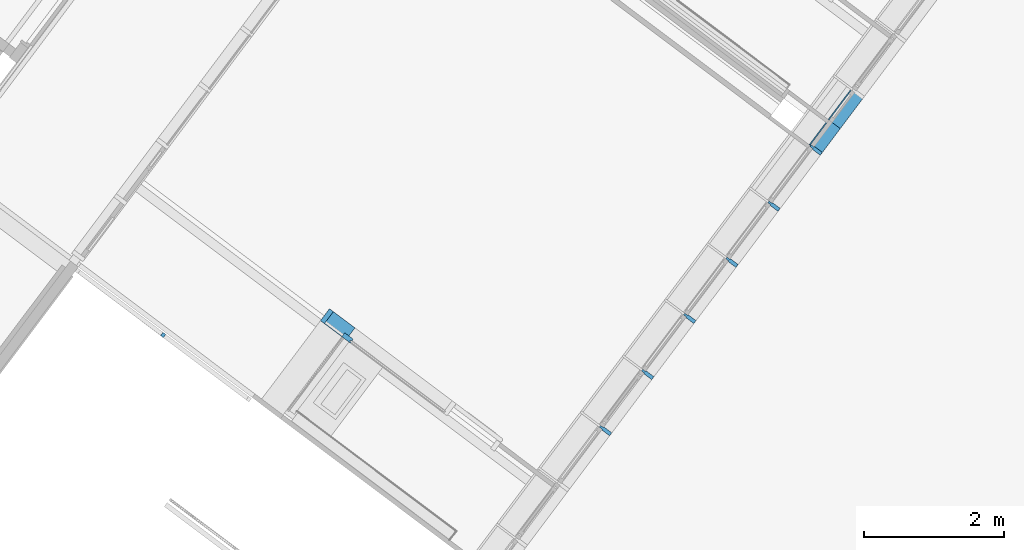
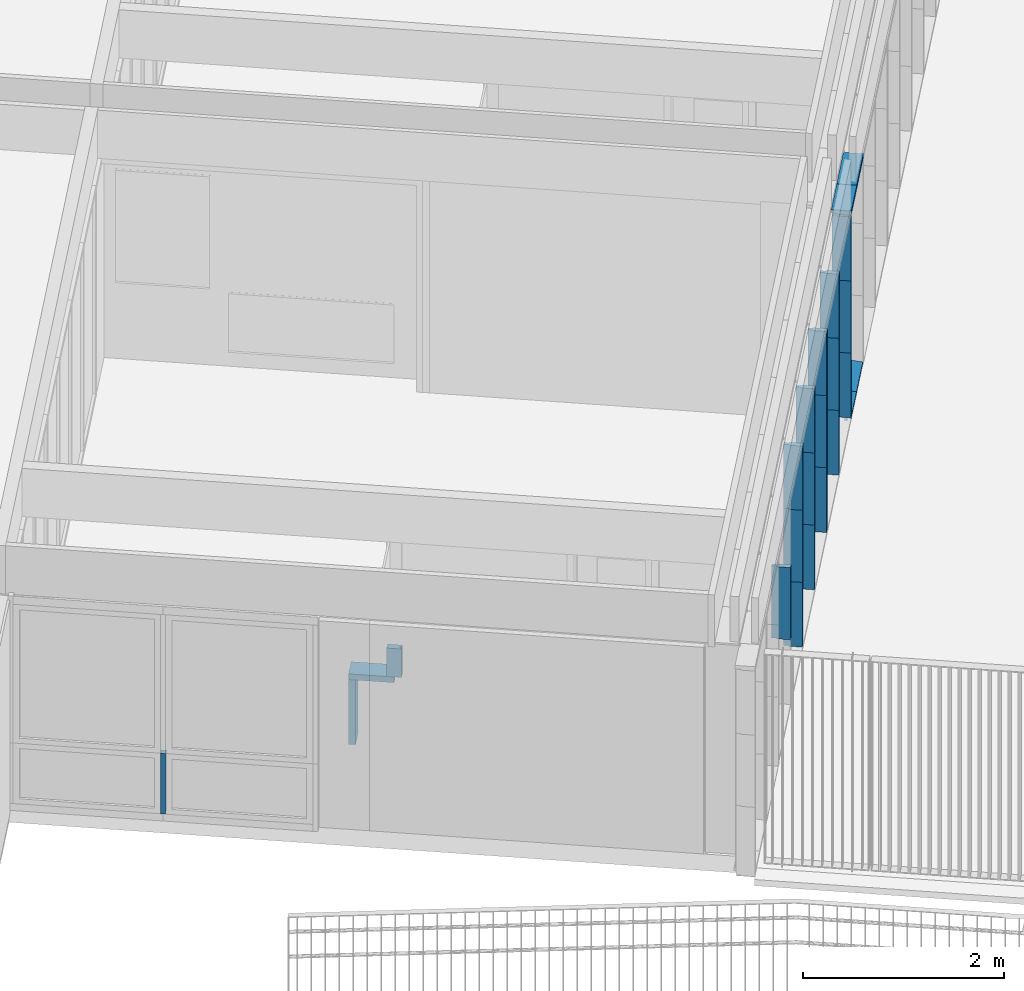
# One storey, part 81 of 243: 24 members, 3 elements without a shape of their own.
"""IFC2X3 building model written with IfcOpenShell, lengths in metres."""

from ifc_helpers import new_model, entity, si_unit, converted_unit, derived_unit, direction, frame, frame_2d, origin, place, context, subcontext, project, spatial, polyline, circle_curve, parameter, trimmed, segment, composite_curve, rectangle, outline, extrude, source, transform, mapped, material, type_object, type_shapes, element, aggregate, save


model = new_model("IFC2X3")

# Units and contexts
model_context = context("Model", 3, precision=1e-05, world=origin(), true_north=direction((6.123031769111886e-17, 1.0)))
body_context = subcontext(model_context, "Body", "Model", "MODEL_VIEW")
ifc_project = project(units=[si_unit("LENGTHUNIT", "METRE"), si_unit("AREAUNIT", "SQUARE_METRE"), si_unit("VOLUMEUNIT", "CUBIC_METRE"), converted_unit("PLANEANGLEUNIT", "DEGREE", entity("IfcRatioMeasure", 0.017453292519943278), si_unit("PLANEANGLEUNIT", "RADIAN"), dimensions=[0, 0, 0, 0, 0, 0, 0]), si_unit("MASSUNIT", "GRAM", prefix="KILO"), derived_unit("MASSDENSITYUNIT", [(si_unit("MASSUNIT", "GRAM", prefix="KILO"), 1), (si_unit("LENGTHUNIT", "METRE"), -3)]), derived_unit("IONCONCENTRATIONUNIT", [(si_unit("MASSUNIT", "GRAM", prefix="KILO"), 1), (si_unit("LENGTHUNIT", "METRE"), -3)]), derived_unit("MOMENTOFINERTIAUNIT", [(si_unit("LENGTHUNIT", "METRE"), 4)]), si_unit("TIMEUNIT", "SECOND"), si_unit("FREQUENCYUNIT", "HERTZ"), si_unit("THERMODYNAMICTEMPERATUREUNIT", "DEGREE_CELSIUS"), derived_unit("THERMALTRANSMITTANCEUNIT", [(si_unit("MASSUNIT", "GRAM", prefix="KILO"), 1), (si_unit("THERMODYNAMICTEMPERATUREUNIT", "KELVIN"), -1), (si_unit("TIMEUNIT", "SECOND"), -3)]), derived_unit("THERMALCONDUCTANCEUNIT", [(si_unit("MASSUNIT", "GRAM", prefix="KILO"), 1), (si_unit("THERMODYNAMICTEMPERATUREUNIT", "KELVIN"), -1), (si_unit("TIMEUNIT", "SECOND"), -3), (si_unit("LENGTHUNIT", "METRE"), 1)]), derived_unit("VOLUMETRICFLOWRATEUNIT", [(si_unit("LENGTHUNIT", "METRE"), 3), (si_unit("TIMEUNIT", "SECOND"), -1)]), derived_unit("MASSFLOWRATEUNIT", [(si_unit("MASSUNIT", "GRAM", prefix="KILO"), 1), (si_unit("TIMEUNIT", "SECOND"), -1)]), derived_unit("ROTATIONALFREQUENCYUNIT", [(si_unit("TIMEUNIT", "SECOND"), -1)]), si_unit("ELECTRICCURRENTUNIT", "AMPERE"), si_unit("ELECTRICVOLTAGEUNIT", "VOLT"), si_unit("POWERUNIT", "WATT"), si_unit("FORCEUNIT", "NEWTON", prefix="KILO"), si_unit("ILLUMINANCEUNIT", "LUX"), si_unit("LUMINOUSFLUXUNIT", "LUMEN"), si_unit("LUMINOUSINTENSITYUNIT", "CANDELA"), derived_unit("USERDEFINED", [(si_unit("MASSUNIT", "GRAM", prefix="KILO"), -1), (si_unit("LENGTHUNIT", "METRE"), -2), (si_unit("TIMEUNIT", "SECOND"), 3), (si_unit("LUMINOUSFLUXUNIT", "LUMEN"), 1)]), derived_unit("USERDEFINED", [(si_unit("MASSUNIT", "GRAM", prefix="KILO"), 1), (si_unit("TIMEUNIT", "SECOND"), -3), (si_unit("LENGTHUNIT", "METRE"), 3), (si_unit("ELECTRICCURRENTUNIT", "AMPERE"), -2)]), derived_unit("SOUNDPOWERUNIT", [(si_unit("MASSUNIT", "GRAM", prefix="KILO"), 1), (si_unit("TIMEUNIT", "SECOND"), -3), (si_unit("LENGTHUNIT", "METRE"), 2)]), derived_unit("SOUNDPRESSUREUNIT", [(si_unit("MASSUNIT", "GRAM", prefix="KILO"), 1), (si_unit("LENGTHUNIT", "METRE"), -1), (si_unit("TIMEUNIT", "SECOND"), -2)]), derived_unit("LINEARVELOCITYUNIT", [(si_unit("LENGTHUNIT", "METRE"), 1), (si_unit("TIMEUNIT", "SECOND"), -1)]), si_unit("PRESSUREUNIT", "PASCAL"), derived_unit("USERDEFINED", [(si_unit("MASSUNIT", "GRAM", prefix="KILO"), 1), (si_unit("LENGTHUNIT", "METRE"), -2), (si_unit("TIMEUNIT", "SECOND"), -2)]), derived_unit("LINEARFORCEUNIT", [(si_unit("MASSUNIT", "GRAM", prefix="KILO"), 1), (si_unit("TIMEUNIT", "SECOND"), -2)]), derived_unit("PLANARFORCEUNIT", [(si_unit("MASSUNIT", "GRAM", prefix="KILO"), 1), (si_unit("LENGTHUNIT", "METRE"), -1), (si_unit("TIMEUNIT", "SECOND"), -2)]), derived_unit("SPECIFICHEATCAPACITYUNIT", [(si_unit("THERMODYNAMICTEMPERATUREUNIT", "KELVIN"), -1), (si_unit("LENGTHUNIT", "METRE"), 2), (si_unit("TIMEUNIT", "SECOND"), -2)]), derived_unit("HEATINGVALUEUNIT", [(si_unit("LENGTHUNIT", "METRE"), 2), (si_unit("TIMEUNIT", "SECOND"), -2)]), derived_unit("VAPORPERMEABILITYUNIT", [(si_unit("LENGTHUNIT", "METRE"), -1), (si_unit("TIMEUNIT", "SECOND"), 1)]), derived_unit("DYNAMICVISCOSITYUNIT", [(si_unit("MASSUNIT", "GRAM", prefix="KILO"), 1), (si_unit("TIMEUNIT", "SECOND"), -1), (si_unit("LENGTHUNIT", "METRE"), -1)]), derived_unit("THERMALEXPANSIONCOEFFICIENTUNIT", [(si_unit("THERMODYNAMICTEMPERATUREUNIT", "KELVIN"), -1)]), derived_unit("MODULUSOFELASTICITYUNIT", [(si_unit("MASSUNIT", "GRAM", prefix="KILO"), 1), (si_unit("LENGTHUNIT", "METRE"), -1), (si_unit("TIMEUNIT", "SECOND"), -2)]), derived_unit("ISOTHERMALMOISTURECAPACITYUNIT", [(si_unit("LENGTHUNIT", "METRE"), 3), (si_unit("MASSUNIT", "GRAM", prefix="KILO"), -1)]), derived_unit("MOISTUREDIFFUSIVITYUNIT", [(si_unit("TIMEUNIT", "SECOND"), -1), (si_unit("LENGTHUNIT", "METRE"), 2)])], contexts=[model_context])

# Site, building, storey
site_placement = place(None, frame((0.0, 0.0, 235.0), z_axis=(0.0, 0.0, 1.0), x_axis=(-0.7996477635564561, 0.6004693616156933, 0.0)))
site = spatial("IfcSite", under=ifc_project, at=site_placement, Name="Default", CompositionType="ELEMENT")
building_placement = place(site_placement, origin())
building = spatial("IfcBuilding", under=site, at=building_placement, CompositionType="ELEMENT")
storey_placement = place(building_placement, origin())
storey = spatial("IfcBuildingStorey", under=building, at=storey_placement, Name="P0- Escola", CompositionType="ELEMENT", Elevation=0.0)

# Curtain wall, members
curtain_wall_type_1 = type_object("IfcCurtainWallType", Name="Muro cortina:MC- INT- k1", PredefinedType="NOTDEFINED")
curtain_wall_1_placement = place(storey_placement, origin())
curtain_wall_1 = element("IfcCurtainWall", 1, at=curtain_wall_1_placement, inside=storey, type_object=curtain_wall_type_1, Name="Muro cortina:MC- INT- k1", ObjectType="Muro cortina:MC- INT- k1")
ifc_material_1 = material(Name="_Fusta massisa- T1")
member_type_1 = type_object("IfcMemberType", Name="Montante rectangular:MC- Fusta- 21,4x7 cm- Neutre- Bany infantil", PredefinedType="MULLION", material=ifc_material_1)
shared_shape_1 = source(origin(), body_context, "Body", "SweptSolid", [
    extrude(rectangle(XDim=0.21399999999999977, YDim=0.06999999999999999, at=frame_2d((5.551115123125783e-17, 0.0), x_axis=(1.0, 0.0))), frame((-0.034999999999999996, -0.08099999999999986, -0.7849999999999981), z_axis=(0.0, 0.0, 1.0), x_axis=(0.0, -1.0, 0.0)), (0.0, 0.0, 1.0), 0.7849999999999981),
])
type_shapes(member_type_1, [shared_shape_1])
member_1_placement = place(curtain_wall_1_placement, frame((10.025147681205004, -19.82719175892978, 0.7849999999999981)))
member_1 = element("IfcMember", 2, at=member_1_placement, type_object=member_type_1, material=ifc_material_1, Name="Montante rectangular:MC- Fusta- 21,4x7 cm- Neutre- Bany infantil", ObjectType="Montante rectangular:MC- Fusta- 21,4x7 cm- Neutre- Bany infantil", context=body_context, shape_type="MappedRepresentation", body=[
    mapped(shared_shape_1, transform((0.0, 0.0, 0.0), scale=1.0)),
])
member_type_2 = type_object("IfcMemberType", Name="Montante rectangular:MC- Fusta- 21,4x7 cm- Neutre- Bany infantil", PredefinedType="MULLION", material=ifc_material_1)
shared_shape_2 = source(origin(), body_context, "Body", "SweptSolid", [
    extrude(rectangle(XDim=0.21400000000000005, YDim=0.06999999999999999, at=frame_2d((-5.551115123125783e-17, 0.0), x_axis=(1.0, 0.0))), frame((0.0, -0.08099999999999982, -0.4550000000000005), z_axis=(0.0, 0.0, 1.0), x_axis=(0.0, -1.0, 0.0)), (0.0, 0.0, 1.0), 0.4550000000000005),
])
type_shapes(member_type_2, [shared_shape_2])
member_2_placement = place(curtain_wall_1_placement, frame((9.570147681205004, -19.82719175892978, 0.8199999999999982), z_axis=(-1.0, 0.0, 0.0), x_axis=(0.0, 0.0, 1.0)))
member_2 = element("IfcMember", 3, at=member_2_placement, type_object=member_type_2, material=ifc_material_1, Name="Montante rectangular:MC- Fusta- 21,4x7 cm- Neutre- Bany infantil", ObjectType="Montante rectangular:MC- Fusta- 21,4x7 cm- Neutre- Bany infantil", context=body_context, shape_type="MappedRepresentation", body=[
    mapped(shared_shape_2, transform((0.0, 0.0, 0.0), scale=1.0)),
])
member_type_3 = type_object("IfcMemberType", Name="Montante rectangular:PerfilBany-Dreta", PredefinedType="MULLION", material=ifc_material_1)
shared_shape_3 = source(origin(), body_context, "Body", "SweptSolid", [
    extrude(outline(polyline([(-0.03050000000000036, -0.1075), (0.0394999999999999, -0.1075), (0.0394999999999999, 0.04250000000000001), (0.0055000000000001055, 0.04250000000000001), (0.0055000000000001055, 0.022500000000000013), (-0.014499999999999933, 0.022500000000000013), (-0.014499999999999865, 0.04249999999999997), (-0.030499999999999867, 0.04249999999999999), (-0.03050000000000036, -0.1075)])), frame((0.03250000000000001, -0.0045000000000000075, -0.3450000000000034), z_axis=(0.0, 0.0, 1.0), x_axis=(0.0, -1.0, 0.0)), (0.0, 0.0, 1.0), 0.34500000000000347),
])
type_shapes(member_type_3, [shared_shape_3])
member_3_placement = place(curtain_wall_1_placement, frame((9.570147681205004, -19.82719175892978, 0.8549999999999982), z_axis=(0.0, 0.0, -1.0), x_axis=(-1.0, 0.0, 0.0)))
member_3 = element("IfcMember", 4, at=member_3_placement, type_object=member_type_3, material=ifc_material_1, Name="Montante rectangular:PerfilBany-Dreta", ObjectType="Montante rectangular:PerfilBany-Dreta", context=body_context, shape_type="MappedRepresentation", body=[
    mapped(shared_shape_3, transform((0.0, 0.0, 0.0), scale=1.0)),
])
aggregate(curtain_wall_1, [member_1, member_2, member_3])

curtain_wall_type_2 = type_object("IfcCurtainWallType", Name="Muro cortina:MC- EXT- MC2", PredefinedType="NOTDEFINED")
curtain_wall_2_placement = place(storey_placement, origin())
curtain_wall_2 = element("IfcCurtainWall", 5, at=curtain_wall_2_placement, inside=storey, type_object=curtain_wall_type_2, Name="Muro cortina:MC- EXT- MC2", ObjectType="Muro cortina:MC- EXT- MC2")
ifc_material_2 = material(Name="_Alumini- T1- Perfil")
member_type_4 = type_object("IfcMemberType", Name="Montante rectangular:MC- Alu- 140x52,5 cm- Fa patis- Centre", PredefinedType="MULLION", material=ifc_material_2)
shared_shape_4 = source(origin(), body_context, "Body", "SweptSolid", [
    extrude(outline(polyline([(-0.11699999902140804, -0.026250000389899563), (0.021999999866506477, -0.026250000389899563), (0.021999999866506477, -0.01500000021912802), (0.07299999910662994, -0.01500000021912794), (0.07299999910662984, 0.015000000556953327), (0.02200000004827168, 0.015000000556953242), (0.02200000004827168, 0.026250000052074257), (-0.11699999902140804, 0.026250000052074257), (-0.11699999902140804, -0.026250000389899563)])), frame((0.0, 0.022999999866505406, -0.7849999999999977), z_axis=(0.0, 0.0, 1.0), x_axis=(0.0, -1.0, 0.0)), (0.0, 0.0, 1.0), 0.7849999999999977),
])
type_shapes(member_type_4, [shared_shape_4])
member_4_placement = place(curtain_wall_2_placement, frame((5.885147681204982, -21.990191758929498, 0.035000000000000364), z_axis=(0.0, 0.0, -1.0), x_axis=(0.0, -1.0, 0.0)))
member_4 = element("IfcMember", 6, at=member_4_placement, type_object=member_type_4, material=ifc_material_2, Name="Montante rectangular:MC- Alu- 140x52,5 cm- Fa patis- Centre", ObjectType="Montante rectangular:MC- Alu- 140x52,5 cm- Fa patis- Centre", context=body_context, shape_type="MappedRepresentation", body=[
    mapped(shared_shape_4, transform((0.0, 0.0, 0.0), scale=1.0)),
])
member_5_placement = place(curtain_wall_2_placement, frame((5.885147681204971, -23.990191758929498, 0.035000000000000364), z_axis=(0.0, 0.0, -1.0), x_axis=(0.0, -1.0, 0.0)))
member_5 = element("IfcMember", 7, at=member_5_placement, type_object=member_type_4, material=ifc_material_2, Name="Montante rectangular:MC- Alu- 140x52,5 cm- Fa patis- Centre", ObjectType="Montante rectangular:MC- Alu- 140x52,5 cm- Fa patis- Centre", context=body_context, shape_type="MappedRepresentation", body=[
    mapped(shared_shape_4, transform((0.0, 0.0, 0.0), scale=1.0)),
])
member_6_placement = place(curtain_wall_2_placement, frame((5.8851476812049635, -24.990191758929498, 0.035000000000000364), z_axis=(0.0, 0.0, -1.0), x_axis=(0.0, -1.0, 0.0)))
member_6 = element("IfcMember", 8, at=member_6_placement, type_object=member_type_4, material=ifc_material_2, Name="Montante rectangular:MC- Alu- 140x52,5 cm- Fa patis- Centre", ObjectType="Montante rectangular:MC- Alu- 140x52,5 cm- Fa patis- Centre", context=body_context, shape_type="MappedRepresentation", body=[
    mapped(shared_shape_4, transform((0.0, 0.0, 0.0), scale=1.0)),
])
member_7_placement = place(curtain_wall_2_placement, frame((5.885147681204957, -25.990191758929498, 0.035000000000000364), z_axis=(0.0, 0.0, -1.0), x_axis=(0.0, -1.0, 0.0)))
member_7 = element("IfcMember", 9, at=member_7_placement, type_object=member_type_4, material=ifc_material_2, Name="Montante rectangular:MC- Alu- 140x52,5 cm- Fa patis- Centre", ObjectType="Montante rectangular:MC- Alu- 140x52,5 cm- Fa patis- Centre", context=body_context, shape_type="MappedRepresentation", body=[
    mapped(shared_shape_4, transform((0.0, 0.0, 0.0), scale=1.0)),
])
member_type_5 = type_object("IfcMemberType", Name="Montante rectangular:MC- Alu- 140x52,5 cm- Fa patis- inferior", PredefinedType="MULLION", material=ifc_material_2)
shared_shape_5 = source(origin(), body_context, "Body", "SweptSolid", [
    extrude(outline(composite_curve([segment(polyline([(0.12786724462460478, -0.025867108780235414), (0.14416724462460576, -0.025867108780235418)]), True, "CONTINUOUS"), segment(polyline([(0.14416724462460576, -0.025867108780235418), (0.14416724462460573, 0.009132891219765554)]), True, "CONTINUOUS"), segment(polyline([(0.14416724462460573, 0.009132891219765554), (0.06786724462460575, 0.009132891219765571)]), True, "CONTINUOUS"), segment(polyline([(0.06786724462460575, 0.009132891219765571), (0.06786724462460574, -0.021159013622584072)]), True, "CONTINUOUS"), segment(polyline([(0.06786724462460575, -0.021159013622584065), (-0.030132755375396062, -0.012332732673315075)]), True, "CONTINUOUS"), segment(polyline([(-0.030132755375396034, -0.012332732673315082), (-0.030132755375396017, 0.0271328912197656)]), True, "CONTINUOUS"), segment(polyline([(-0.030132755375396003, 0.027132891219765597), (-0.0021327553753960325, 0.027132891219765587)]), True, "CONTINUOUS"), segment(polyline([(-0.0021327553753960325, 0.02713289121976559), (-0.002132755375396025, 0.029132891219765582)]), True, "CONTINUOUS"), segment(polyline([(-0.002132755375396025, 0.029132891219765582), (-0.03213275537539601, 0.029132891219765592)]), True, "CONTINUOUS"), segment(polyline([(-0.03213275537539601, 0.029132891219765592), (-0.03213275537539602, -0.012152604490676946)]), True, "CONTINUOUS"), segment(polyline([(-0.03213275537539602, -0.012152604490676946), (-0.0701327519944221, -0.008730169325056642)]), True, "CONTINUOUS"), segment(polyline([(-0.0701327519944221, -0.008730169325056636), (-0.0701327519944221, 0.005766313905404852)]), True, "CONTINUOUS"), segment(trimmed(circle_curve(frame_2d((-0.0696327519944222, 0.005766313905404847), x_axis=(-1.0, 0.0)), 0.0004999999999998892), [parameter(269.99999999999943)], [parameter(0.0)], True, "PARAMETER"), False, "CONTINUOUS"), segment(polyline([(-0.0696327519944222, 0.006266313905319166), (-0.06213275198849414, 0.0062663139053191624)]), True, "CONTINUOUS"), segment(polyline([(-0.06213275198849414, 0.0062663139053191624), (-0.062132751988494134, 0.008266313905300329)]), True, "CONTINUOUS"), segment(polyline([(-0.062132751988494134, 0.008266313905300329), (-0.07013275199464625, 0.00826631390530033)]), True, "CONTINUOUS"), segment(trimmed(circle_curve(frame_2d((-0.07013275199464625, 0.006266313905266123), x_axis=(0.0, 1.0)), 0.002000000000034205), [parameter(0.0)], [parameter(90.00000002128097)], True, "PARAMETER"), True, "CONTINUOUS"), segment(polyline([(-0.07213275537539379, 0.00626631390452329), (-0.07213275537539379, -0.008730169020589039)]), True, "CONTINUOUS"), segment(trimmed(circle_curve(frame_2d((-0.07013275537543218, -0.008730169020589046), x_axis=(-1.0, 0.0)), 0.001999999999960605), [parameter(0.0)], [parameter(84.85359280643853)], True, "PARAMETER"), True, "CONTINUOUS"), segment(polyline([(-0.07031215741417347, -0.010722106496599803), (0.06786724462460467, -0.023167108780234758)]), True, "CONTINUOUS"), segment(polyline([(0.06786724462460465, -0.02316710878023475), (0.12786724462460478, -0.02316710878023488)]), True, "CONTINUOUS"), segment(polyline([(0.12786724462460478, -0.02316710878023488), (0.12786724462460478, -0.025867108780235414)]), True, "CONTINUOUS")], self_intersect=False)), frame((-0.029132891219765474, 0.06786724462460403, -0.449999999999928), z_axis=(0.0, 0.0, 1.0), x_axis=(0.0, -1.0, 0.0)), (0.0, 0.0, 1.0), 0.449999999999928),
])
type_shapes(member_type_5, [shared_shape_5])
member_8_placement = place(curtain_wall_2_placement, frame((5.885147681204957, -25.990191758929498, -0.02), z_axis=(0.0, 1.0, 0.0), x_axis=(0.0, 0.0, -1.0)))
member_8 = element("IfcMember", 10, at=member_8_placement, type_object=member_type_5, material=ifc_material_2, Name="Montante rectangular:MC- Alu- 140x52,5 cm- Fa patis- inferior", ObjectType="Montante rectangular:MC- Alu- 140x52,5 cm- Fa patis- inferior", context=body_context, shape_type="MappedRepresentation", body=[
    mapped(shared_shape_5, transform((0.0, 0.0, 0.0), scale=1.0)),
])
member_type_6 = type_object("IfcMemberType", Name="Montante rectangular:MC- Alu- 140x52,5 cm- Fa patis- Superior", PredefinedType="MULLION", material=ifc_material_2)
shared_shape_6 = source(origin(), body_context, "Body", "SweptSolid", [
    extrude(outline(polyline([(-0.11366666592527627, -0.021249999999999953), (0.02633333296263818, -0.021249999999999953), (0.02633333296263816, -0.010000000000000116), (0.08733333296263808, -0.010000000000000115), (0.08733333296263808, 0.03125000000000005), (-0.11366666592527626, 0.031250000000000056), (-0.11366666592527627, -0.021249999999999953)])), frame((-0.031250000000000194, 0.027333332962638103, -0.5500000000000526), z_axis=(0.0, 0.0, 1.0), x_axis=(0.0, -1.0, 0.0)), (0.0, 0.0, 1.0), 0.5500000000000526),
])
type_shapes(member_type_6, [shared_shape_6])
member_9_placement = place(curtain_wall_2_placement, frame((5.885147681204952, -26.99019175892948, 2.525), z_axis=(0.0, -1.0, 0.0), x_axis=(0.0, 0.0, 1.0)))
member_9 = element("IfcMember", 11, at=member_9_placement, type_object=member_type_6, material=ifc_material_2, Name="Montante rectangular:MC- Alu- 140x52,5 cm- Fa patis- Superior", ObjectType="Montante rectangular:MC- Alu- 140x52,5 cm- Fa patis- Superior", context=body_context, shape_type="MappedRepresentation", body=[
    mapped(shared_shape_6, transform((0.0, 0.0, 0.0), scale=1.0)),
])
member_type_7 = type_object("IfcMemberType", Name="Montante rectangular:MC- Alu- 140x52,5 cm- Fa patis- Centre", PredefinedType="MULLION", material=ifc_material_2)
shared_shape_7 = source(origin(), body_context, "Body", "SweptSolid", [
    extrude(outline(polyline([(-0.11699999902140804, -0.026250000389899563), (0.021999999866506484, -0.026250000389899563), (0.021999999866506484, -0.01500000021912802), (0.07299999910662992, -0.01500000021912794), (0.07299999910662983, 0.015000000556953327), (0.022000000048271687, 0.015000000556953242), (0.022000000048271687, 0.026250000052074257), (-0.11699999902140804, 0.026250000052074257), (-0.11699999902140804, -0.026250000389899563)])), frame((0.0, 0.022999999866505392, -0.7850000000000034), z_axis=(0.0, 0.0, 1.0), x_axis=(0.0, -1.0, 0.0)), (0.0, 0.0, 1.0), 0.7850000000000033),
])
type_shapes(member_type_7, [shared_shape_7])
member_10_placement = place(curtain_wall_2_placement, frame((5.885147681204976, -22.990191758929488, 0.035000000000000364), z_axis=(0.0, 0.0, -1.0), x_axis=(0.0, -1.0, 0.0)))
member_10 = element("IfcMember", 12, at=member_10_placement, type_object=member_type_7, material=ifc_material_2, Name="Montante rectangular:MC- Alu- 140x52,5 cm- Fa patis- Centre", ObjectType="Montante rectangular:MC- Alu- 140x52,5 cm- Fa patis- Centre", context=body_context, shape_type="MappedRepresentation", body=[
    mapped(shared_shape_7, transform((0.0, 0.0, 0.0), scale=1.0)),
])
member_type_8 = type_object("IfcMemberType", Name="Montante rectangular:MC- Alu- 140x52,5 cm- Fa patis- Superior", PredefinedType="MULLION", material=ifc_material_2)
shared_shape_8 = source(origin(), body_context, "Body", "SweptSolid", [
    extrude(outline(polyline([(-0.11366666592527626, -0.021249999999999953), (0.026333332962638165, -0.021249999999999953), (0.026333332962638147, -0.010000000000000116), (0.0873333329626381, -0.010000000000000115), (0.0873333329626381, 0.03125000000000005), (-0.11366666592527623, 0.031250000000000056), (-0.11366666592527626, -0.021249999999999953)])), frame((-0.031250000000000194, 0.02733333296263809, -0.449999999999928), z_axis=(0.0, 0.0, 1.0), x_axis=(0.0, -1.0, 0.0)), (0.0, 0.0, 1.0), 0.449999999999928),
])
type_shapes(member_type_8, [shared_shape_8])
member_11_placement = place(curtain_wall_2_placement, frame((5.8851476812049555, -26.440191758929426, 2.525), z_axis=(0.0, -1.0, 0.0), x_axis=(0.0, 0.0, 1.0)))
member_11 = element("IfcMember", 13, at=member_11_placement, type_object=member_type_8, material=ifc_material_2, Name="Montante rectangular:MC- Alu- 140x52,5 cm- Fa patis- Superior", ObjectType="Montante rectangular:MC- Alu- 140x52,5 cm- Fa patis- Superior", context=body_context, shape_type="MappedRepresentation", body=[
    mapped(shared_shape_8, transform((0.0, 0.0, 0.0), scale=1.0)),
])
member_type_9 = type_object("IfcMemberType", Name="Montante rectangular:MC- Alu- 140x52,5 cm- Fa patis- inferior", PredefinedType="MULLION", material=ifc_material_2)
shared_shape_9 = source(origin(), body_context, "Body", "SweptSolid", [
    extrude(outline(composite_curve([segment(polyline([(0.12786724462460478, -0.025867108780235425), (0.14416724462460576, -0.025867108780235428)]), True, "CONTINUOUS"), segment(polyline([(0.14416724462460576, -0.025867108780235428), (0.14416724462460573, 0.009132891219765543)]), True, "CONTINUOUS"), segment(polyline([(0.14416724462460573, 0.009132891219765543), (0.06786724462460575, 0.00913289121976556)]), True, "CONTINUOUS"), segment(polyline([(0.06786724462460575, 0.00913289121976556), (0.06786724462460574, -0.021159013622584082)]), True, "CONTINUOUS"), segment(polyline([(0.06786724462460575, -0.021159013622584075), (-0.030132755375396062, -0.012332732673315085)]), True, "CONTINUOUS"), segment(polyline([(-0.030132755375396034, -0.012332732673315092), (-0.030132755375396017, 0.02713289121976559)]), True, "CONTINUOUS"), segment(polyline([(-0.030132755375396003, 0.027132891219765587), (-0.0021327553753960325, 0.027132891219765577)]), True, "CONTINUOUS"), segment(polyline([(-0.0021327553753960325, 0.02713289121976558), (-0.002132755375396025, 0.02913289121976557)]), True, "CONTINUOUS"), segment(polyline([(-0.002132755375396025, 0.02913289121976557), (-0.03213275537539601, 0.029132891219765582)]), True, "CONTINUOUS"), segment(polyline([(-0.03213275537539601, 0.029132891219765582), (-0.03213275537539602, -0.012152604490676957)]), True, "CONTINUOUS"), segment(polyline([(-0.03213275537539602, -0.012152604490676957), (-0.0701327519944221, -0.008730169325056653)]), True, "CONTINUOUS"), segment(polyline([(-0.0701327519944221, -0.008730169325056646), (-0.0701327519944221, 0.005766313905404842)]), True, "CONTINUOUS"), segment(trimmed(circle_curve(frame_2d((-0.0696327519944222, 0.0057663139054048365), x_axis=(-1.0, 0.0)), 0.0004999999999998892), [parameter(269.99999999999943)], [parameter(0.0)], True, "PARAMETER"), False, "CONTINUOUS"), segment(polyline([(-0.0696327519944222, 0.0062663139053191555), (-0.06213275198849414, 0.006266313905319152)]), True, "CONTINUOUS"), segment(polyline([(-0.06213275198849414, 0.006266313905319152), (-0.062132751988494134, 0.008266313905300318)]), True, "CONTINUOUS"), segment(polyline([(-0.062132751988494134, 0.008266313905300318), (-0.07013275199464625, 0.00826631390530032)]), True, "CONTINUOUS"), segment(trimmed(circle_curve(frame_2d((-0.07013275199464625, 0.006266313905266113), x_axis=(0.0, 1.0)), 0.002000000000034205), [parameter(0.0)], [parameter(90.00000002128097)], True, "PARAMETER"), True, "CONTINUOUS"), segment(polyline([(-0.07213275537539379, 0.00626631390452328), (-0.07213275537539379, -0.008730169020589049)]), True, "CONTINUOUS"), segment(trimmed(circle_curve(frame_2d((-0.07013275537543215, -0.008730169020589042), x_axis=(-1.0, 0.0)), 0.0019999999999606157), [parameter(0.0)], [parameter(84.85359280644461)], True, "PARAMETER"), True, "CONTINUOUS"), segment(polyline([(-0.07031215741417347, -0.010722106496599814), (0.06786724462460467, -0.023167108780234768)]), True, "CONTINUOUS"), segment(polyline([(0.06786724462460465, -0.02316710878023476), (0.12786724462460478, -0.02316710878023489)]), True, "CONTINUOUS"), segment(polyline([(0.12786724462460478, -0.02316710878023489), (0.12786724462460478, -0.025867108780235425)]), True, "CONTINUOUS")], self_intersect=False)), frame((-0.029132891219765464, 0.06786724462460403, -0.5237499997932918), z_axis=(0.0, 0.0, 1.0), x_axis=(0.0, -1.0, 0.0)), (0.0, 0.0, 1.0), 0.5237499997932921),
])
type_shapes(member_type_9, [shared_shape_9])
member_12_placement = place(curtain_wall_2_placement, frame((5.8851476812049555, -26.440191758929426, -0.02), z_axis=(0.0, 1.0, 0.0), x_axis=(0.0, 0.0, -1.0)))
member_12 = element("IfcMember", 14, at=member_12_placement, type_object=member_type_9, material=ifc_material_2, Name="Montante rectangular:MC- Alu- 140x52,5 cm- Fa patis- inferior", ObjectType="Montante rectangular:MC- Alu- 140x52,5 cm- Fa patis- inferior", context=body_context, shape_type="MappedRepresentation", body=[
    mapped(shared_shape_9, transform((0.0, 0.0, 0.0), scale=1.0)),
])
member_type_10 = type_object("IfcMemberType", Name="Montante rectangular:MC- Alu- 140x52,5 cm- Fa patis- Centre", PredefinedType="MULLION", material=ifc_material_2)
shared_shape_10 = source(origin(), body_context, "Body", "SweptSolid", [
    extrude(outline(polyline([(-0.11699999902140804, -0.026250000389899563), (0.021999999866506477, -0.026250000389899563), (0.021999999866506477, -0.01500000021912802), (0.07299999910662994, -0.01500000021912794), (0.07299999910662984, 0.015000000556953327), (0.02200000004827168, 0.015000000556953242), (0.02200000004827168, 0.026250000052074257), (-0.11699999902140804, 0.026250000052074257), (-0.11699999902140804, -0.026250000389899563)])), frame((0.0, 0.022999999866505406, -0.7774999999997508), z_axis=(0.0, 0.0, 1.0), x_axis=(0.0, -1.0, 0.0)), (0.0, 0.0, 1.0), 0.777499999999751),
])
type_shapes(member_type_10, [shared_shape_10])
member_13_placement = place(curtain_wall_2_placement, frame((5.885147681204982, -21.990191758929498, 1.695000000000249), z_axis=(0.0, 0.0, -1.0), x_axis=(0.0, -1.0, 0.0)))
member_13 = element("IfcMember", 15, at=member_13_placement, type_object=member_type_10, material=ifc_material_2, Name="Montante rectangular:MC- Alu- 140x52,5 cm- Fa patis- Centre", ObjectType="Montante rectangular:MC- Alu- 140x52,5 cm- Fa patis- Centre", context=body_context, shape_type="MappedRepresentation", body=[
    mapped(shared_shape_10, transform((0.0, 0.0, 0.0), scale=1.0)),
])
member_14_placement = place(curtain_wall_2_placement, frame((5.885147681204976, -22.990191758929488, 1.695000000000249), z_axis=(0.0, 0.0, -1.0), x_axis=(0.0, -1.0, 0.0)))
member_14 = element("IfcMember", 16, at=member_14_placement, type_object=member_type_10, material=ifc_material_2, Name="Montante rectangular:MC- Alu- 140x52,5 cm- Fa patis- Centre", ObjectType="Montante rectangular:MC- Alu- 140x52,5 cm- Fa patis- Centre", context=body_context, shape_type="MappedRepresentation", body=[
    mapped(shared_shape_10, transform((0.0, 0.0, 0.0), scale=1.0)),
])
member_15_placement = place(curtain_wall_2_placement, frame((5.885147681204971, -23.990191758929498, 1.695000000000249), z_axis=(0.0, 0.0, -1.0), x_axis=(0.0, -1.0, 0.0)))
member_15 = element("IfcMember", 17, at=member_15_placement, type_object=member_type_10, material=ifc_material_2, Name="Montante rectangular:MC- Alu- 140x52,5 cm- Fa patis- Centre", ObjectType="Montante rectangular:MC- Alu- 140x52,5 cm- Fa patis- Centre", context=body_context, shape_type="MappedRepresentation", body=[
    mapped(shared_shape_10, transform((0.0, 0.0, 0.0), scale=1.0)),
])
member_16_placement = place(curtain_wall_2_placement, frame((5.8851476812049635, -24.990191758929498, 1.695000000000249), z_axis=(0.0, 0.0, -1.0), x_axis=(0.0, -1.0, 0.0)))
member_16 = element("IfcMember", 18, at=member_16_placement, type_object=member_type_10, material=ifc_material_2, Name="Montante rectangular:MC- Alu- 140x52,5 cm- Fa patis- Centre", ObjectType="Montante rectangular:MC- Alu- 140x52,5 cm- Fa patis- Centre", context=body_context, shape_type="MappedRepresentation", body=[
    mapped(shared_shape_10, transform((0.0, 0.0, 0.0), scale=1.0)),
])
member_17_placement = place(curtain_wall_2_placement, frame((5.885147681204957, -25.990191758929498, 1.695000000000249), z_axis=(0.0, 0.0, -1.0), x_axis=(0.0, -1.0, 0.0)))
member_17 = element("IfcMember", 19, at=member_17_placement, type_object=member_type_10, material=ifc_material_2, Name="Montante rectangular:MC- Alu- 140x52,5 cm- Fa patis- Centre", ObjectType="Montante rectangular:MC- Alu- 140x52,5 cm- Fa patis- Centre", context=body_context, shape_type="MappedRepresentation", body=[
    mapped(shared_shape_10, transform((0.0, 0.0, 0.0), scale=1.0)),
])
member_type_11 = type_object("IfcMemberType", Name="Montante rectangular:MC- Alu- 140x52,5 cm- Fa patis- Centre", PredefinedType="MULLION", material=ifc_material_2)
shared_shape_11 = source(origin(), body_context, "Body", "SweptSolid", [
    extrude(outline(polyline([(-0.11699999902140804, -0.026250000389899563), (0.021999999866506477, -0.026250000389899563), (0.021999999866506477, -0.01500000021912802), (0.07299999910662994, -0.01500000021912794), (0.07299999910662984, 0.015000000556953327), (0.02200000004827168, 0.015000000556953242), (0.02200000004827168, 0.026250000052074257), (-0.11699999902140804, 0.026250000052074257), (-0.11699999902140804, -0.026250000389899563)])), frame((0.0, 0.022999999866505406, -0.8750000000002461), z_axis=(0.0, 0.0, 1.0), x_axis=(0.0, -1.0, 0.0)), (0.0, 0.0, 1.0), 0.8750000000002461),
])
type_shapes(member_type_11, [shared_shape_11])
member_18_placement = place(curtain_wall_2_placement, frame((5.885147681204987, -20.990191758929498, 0.8199999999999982), z_axis=(0.0, 0.0, -1.0), x_axis=(0.0, -1.0, 0.0)))
member_18 = element("IfcMember", 20, at=member_18_placement, type_object=member_type_11, material=ifc_material_2, Name="Montante rectangular:MC- Alu- 140x52,5 cm- Fa patis- Centre", ObjectType="Montante rectangular:MC- Alu- 140x52,5 cm- Fa patis- Centre", context=body_context, shape_type="MappedRepresentation", body=[
    mapped(shared_shape_11, transform((0.0, 0.0, 0.0), scale=1.0)),
])
member_19_placement = place(curtain_wall_2_placement, frame((5.885147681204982, -21.990191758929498, 0.8199999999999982), z_axis=(0.0, 0.0, -1.0), x_axis=(0.0, -1.0, 0.0)))
member_19 = element("IfcMember", 21, at=member_19_placement, type_object=member_type_11, material=ifc_material_2, Name="Montante rectangular:MC- Alu- 140x52,5 cm- Fa patis- Centre", ObjectType="Montante rectangular:MC- Alu- 140x52,5 cm- Fa patis- Centre", context=body_context, shape_type="MappedRepresentation", body=[
    mapped(shared_shape_11, transform((0.0, 0.0, 0.0), scale=1.0)),
])
member_20_placement = place(curtain_wall_2_placement, frame((5.885147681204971, -23.990191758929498, 0.8199999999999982), z_axis=(0.0, 0.0, -1.0), x_axis=(0.0, -1.0, 0.0)))
member_20 = element("IfcMember", 22, at=member_20_placement, type_object=member_type_11, material=ifc_material_2, Name="Montante rectangular:MC- Alu- 140x52,5 cm- Fa patis- Centre", ObjectType="Montante rectangular:MC- Alu- 140x52,5 cm- Fa patis- Centre", context=body_context, shape_type="MappedRepresentation", body=[
    mapped(shared_shape_11, transform((0.0, 0.0, 0.0), scale=1.0)),
])
member_21_placement = place(curtain_wall_2_placement, frame((5.8851476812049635, -24.990191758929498, 0.8199999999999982), z_axis=(0.0, 0.0, -1.0), x_axis=(0.0, -1.0, 0.0)))
member_21 = element("IfcMember", 23, at=member_21_placement, type_object=member_type_11, material=ifc_material_2, Name="Montante rectangular:MC- Alu- 140x52,5 cm- Fa patis- Centre", ObjectType="Montante rectangular:MC- Alu- 140x52,5 cm- Fa patis- Centre", context=body_context, shape_type="MappedRepresentation", body=[
    mapped(shared_shape_11, transform((0.0, 0.0, 0.0), scale=1.0)),
])
member_22_placement = place(curtain_wall_2_placement, frame((5.885147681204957, -25.990191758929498, 0.8199999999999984), z_axis=(0.0, 0.0, -1.0), x_axis=(0.0, -1.0, 0.0)))
member_22 = element("IfcMember", 24, at=member_22_placement, type_object=member_type_11, material=ifc_material_2, Name="Montante rectangular:MC- Alu- 140x52,5 cm- Fa patis- Centre", ObjectType="Montante rectangular:MC- Alu- 140x52,5 cm- Fa patis- Centre", context=body_context, shape_type="MappedRepresentation", body=[
    mapped(shared_shape_11, transform((0.0, 0.0, 0.0), scale=1.0)),
])
member_23_placement = place(curtain_wall_2_placement, frame((5.885147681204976, -22.990191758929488, 0.8199999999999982), z_axis=(0.0, 0.0, -1.0), x_axis=(0.0, -1.0, 0.0)))
member_23 = element("IfcMember", 25, at=member_23_placement, type_object=member_type_11, material=ifc_material_2, Name="Montante rectangular:MC- Alu- 140x52,5 cm- Fa patis- Centre", ObjectType="Montante rectangular:MC- Alu- 140x52,5 cm- Fa patis- Centre", context=body_context, shape_type="MappedRepresentation", body=[
    mapped(shared_shape_11, transform((0.0, 0.0, 0.0), scale=1.0)),
])
aggregate(curtain_wall_2, [member_4, member_5, member_6, member_7, member_8, member_9, member_10, member_11, member_12, member_13, member_14, member_15, member_16, member_17, member_18, member_19, member_20, member_21, member_22, member_23])

# Curtain wall, member
curtain_wall_type_3 = type_object("IfcCurtainWallType", Name="Muro cortina:MC- EXT- AL3", PredefinedType="NOTDEFINED")
curtain_wall_3_placement = place(storey_placement, origin())
curtain_wall_3 = element("IfcCurtainWall", 26, at=curtain_wall_3_placement, inside=storey, type_object=curtain_wall_type_3, Name="Muro cortina:MC- EXT- AL3", ObjectType="Muro cortina:MC- EXT- AL3")
member_type_12 = type_object("IfcMemberType", Name="Montante rectangular:MC- Alu- 50x60 cm- Fa pista- Centre", PredefinedType="MULLION", material=ifc_material_2)
shared_shape_12 = source(origin(), body_context, "Body", "SweptSolid", [
    extrude(rectangle(XDim=0.0600000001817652, YDim=0.05, at=frame_2d((8.673617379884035e-18, 0.0), x_axis=(1.0, 0.0))), frame((0.0, -0.030000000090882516, -0.7349999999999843), z_axis=(0.0, 0.0, 1.0), x_axis=(0.0, -1.0, 0.0)), (0.0, 0.0, 1.0), 0.7349999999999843),
])
type_shapes(member_type_12, [shared_shape_12])
member_24_placement = place(curtain_wall_3_placement, frame((11.695147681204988, -18.32199175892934, 0.085), z_axis=(0.0, 0.0, -1.0), x_axis=(1.0, 0.0, 0.0)))
member_24 = element("IfcMember", 27, at=member_24_placement, type_object=member_type_12, material=ifc_material_2, Name="Montante rectangular:MC- Alu- 50x60 cm- Fa pista- Centre", ObjectType="Montante rectangular:MC- Alu- 50x60 cm- Fa pista- Centre", context=body_context, shape_type="MappedRepresentation", body=[
    mapped(shared_shape_12, transform((0.0, 0.0, 0.0), scale=1.0)),
])
aggregate(curtain_wall_3, [member_24])

save(model, "model.ifc")
